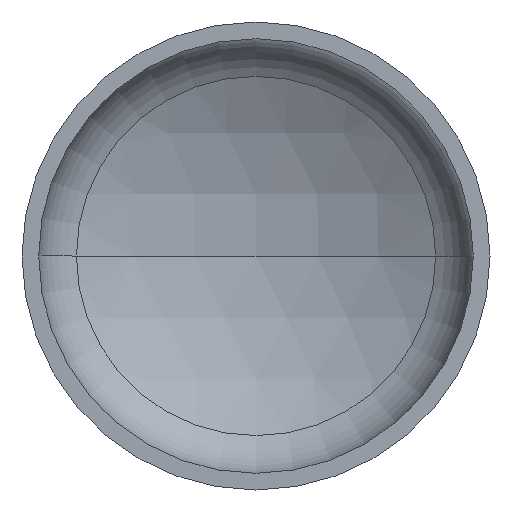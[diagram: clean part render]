
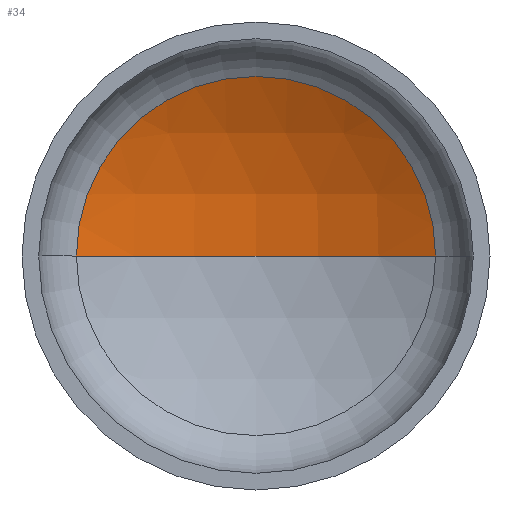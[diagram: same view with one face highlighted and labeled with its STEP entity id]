
A CAD part, front view. The second image highlights one B-rep face of the part: STEP entity #34.
In plain terms, the highlighted spherical face has radius 135 mm.
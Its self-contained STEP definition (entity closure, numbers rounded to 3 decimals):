
#15 = EDGE_LOOP ( 'NONE', ( #130, #40, #257 ) ) ;
#34 = ADVANCED_FACE ( 'NONE', ( #280 ), #352, .F. ) ;
#40 = ORIENTED_EDGE ( 'NONE', *, *, #367, .T. ) ;
#87 = DIRECTION ( 'NONE',  ( 1., 0., 0. ) ) ;
#104 = DIRECTION ( 'NONE',  ( -1., 0., 0. ) ) ;
#130 = ORIENTED_EDGE ( 'NONE', *, *, #363, .F. ) ;
#142 = AXIS2_PLACEMENT_3D ( 'NONE', #260, #206, #87 ) ;
#147 = DIRECTION ( 'NONE',  ( 1., 0., 0. ) ) ;
#148 = AXIS2_PLACEMENT_3D ( 'NONE', #166, #287, #104 ) ;
#166 = CARTESIAN_POINT ( 'NONE',  ( 0., -75.715, 0. ) ) ;
#172 = AXIS2_PLACEMENT_3D ( 'NONE', #382, #211, #147 ) ;
#174 = VERTEX_POINT ( 'NONE', #293 ) ;
#182 = CIRCLE ( 'NONE', #148, 135. ) ;
#188 = VERTEX_POINT ( 'NONE', #294 ) ;
#193 = VERTEX_POINT ( 'NONE', #213 ) ;
#199 = DIRECTION ( 'NONE',  ( 0., 0., -1. ) ) ;
#202 = DIRECTION ( 'NONE',  ( -1., 0., 0. ) ) ;
#206 = DIRECTION ( 'NONE',  ( 0., -1., 0. ) ) ;
#211 = DIRECTION ( 'NONE',  ( 0., 0., 1. ) ) ;
#213 = CARTESIAN_POINT ( 'NONE',  ( 0., 59.285, 0. ) ) ;
#256 = CARTESIAN_POINT ( 'NONE',  ( 0., -75.715, 0. ) ) ;
#257 = ORIENTED_EDGE ( 'NONE', *, *, #370, .T. ) ;
#260 = CARTESIAN_POINT ( 'NONE',  ( 0., 42.831, 0. ) ) ;
#262 = CIRCLE ( 'NONE', #172, 135. ) ;
#277 = AXIS2_PLACEMENT_3D ( 'NONE', #256, #199, #202 ) ;
#280 = FACE_OUTER_BOUND ( 'NONE', #15, .T. ) ;
#287 = DIRECTION ( 'NONE',  ( 0., 0., -1. ) ) ;
#293 = CARTESIAN_POINT ( 'NONE',  ( -64.589, 42.831, 0. ) ) ;
#294 = CARTESIAN_POINT ( 'NONE',  ( 64.589, 42.831, 0. ) ) ;
#344 = CIRCLE ( 'NONE', #142, 64.589 ) ;
#352 = SPHERICAL_SURFACE ( 'NONE', #277, 135. ) ;
#363 = EDGE_CURVE ( 'NONE', #193, #174, #262, .T. ) ;
#367 = EDGE_CURVE ( 'NONE', #193, #188, #182, .T. ) ;
#370 = EDGE_CURVE ( 'NONE', #188, #174, #344, .T. ) ;
#382 = CARTESIAN_POINT ( 'NONE',  ( 0., -75.715, 0. ) ) ;
